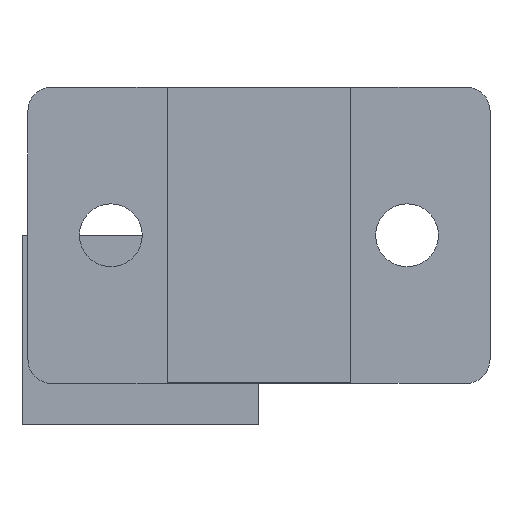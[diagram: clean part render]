
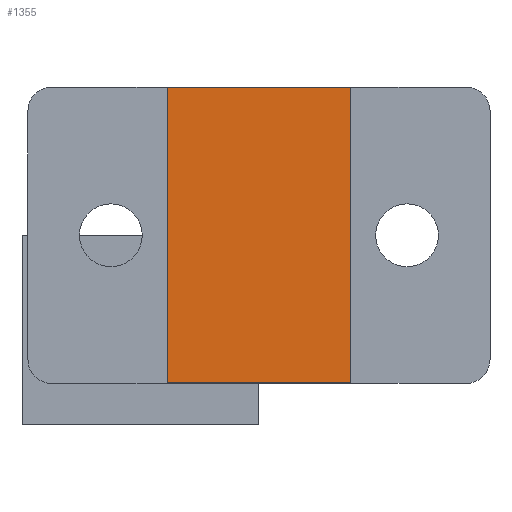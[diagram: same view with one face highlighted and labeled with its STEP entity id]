
A CAD part, front view. The second image highlights one B-rep face of the part: STEP entity #1355.
In plain terms, the highlighted planar face has unit normal (0, -1, 0).
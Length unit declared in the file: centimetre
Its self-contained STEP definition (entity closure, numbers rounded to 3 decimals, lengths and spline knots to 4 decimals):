
#716=VERTEX_POINT('',#4026);
#717=VERTEX_POINT('',#4028);
#723=VERTEX_POINT('',#4044);
#724=VERTEX_POINT('',#4046);
#808=EDGE_CURVE('',#716,#717,#2271,.T.);
#817=EDGE_CURVE('',#723,#724,#2280,.T.);
#825=EDGE_CURVE('',#724,#716,#2286,.T.);
#826=EDGE_CURVE('',#723,#717,#2287,.T.);
#965=ORIENTED_EDGE('',*,*,#825,.F.);
#966=ORIENTED_EDGE('',*,*,#817,.F.);
#967=ORIENTED_EDGE('',*,*,#826,.T.);
#968=ORIENTED_EDGE('',*,*,#808,.F.);
#1223=EDGE_LOOP('',(#965,#966,#967,#968));
#1289=FACE_BOUND('',#1223,.T.);
#1355=ADVANCED_FACE('',(#1289),#3492,.T.);
#2271=LINE('',#4027,#3359);
#2280=LINE('',#4045,#3368);
#2286=LINE('',#4059,#3374);
#2287=LINE('',#4060,#3375);
#3167=AXIS2_PLACEMENT_3D('',#4058,#4506,$);
#3359=VECTOR('',#4489,1.);
#3368=VECTOR('',#4500,1.);
#3374=VECTOR('',#4507,1.);
#3375=VECTOR('',#4508,1.);
#3492=PLANE('',#3167);
#4026=CARTESIAN_POINT('',(-1.55,-0.65,2.4888));
#4027=CARTESIAN_POINT('',(-1.5688,-0.65,2.4888));
#4028=CARTESIAN_POINT('',(1.55,-0.65,2.4888));
#4044=CARTESIAN_POINT('',(1.55,-0.65,-2.484));
#4045=CARTESIAN_POINT('',(0.0175,-0.65,-2.484));
#4046=CARTESIAN_POINT('',(-1.55,-0.65,-2.484));
#4058=CARTESIAN_POINT('',(-1.55,-0.65,-6.8856));
#4059=CARTESIAN_POINT('',(-1.55,-0.65,-6.8856));
#4060=CARTESIAN_POINT('',(1.55,-0.65,-6.8856));
#4489=DIRECTION('',(1.,0.,0.));
#4500=DIRECTION('',(-1.,0.,0.));
#4506=DIRECTION('',(0.,-1.,0.));
#4507=DIRECTION('',(0.,0.,1.));
#4508=DIRECTION('',(0.,0.,1.));
